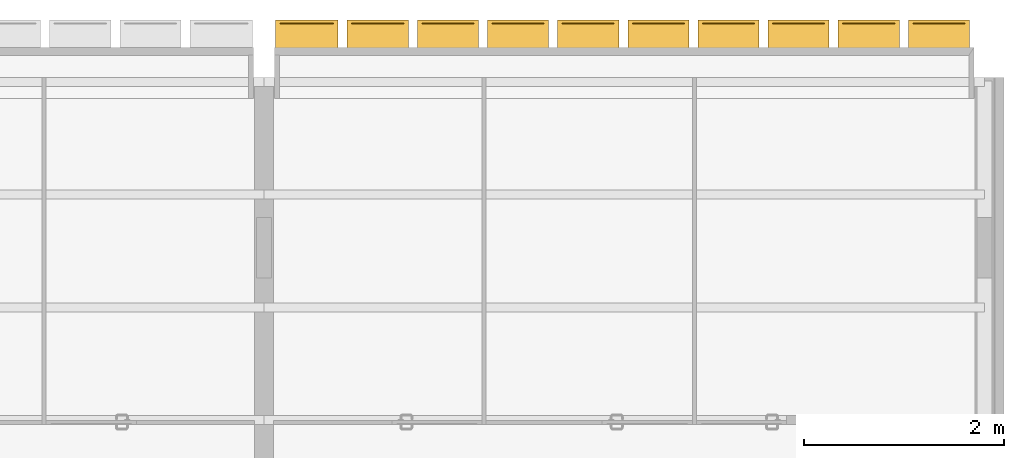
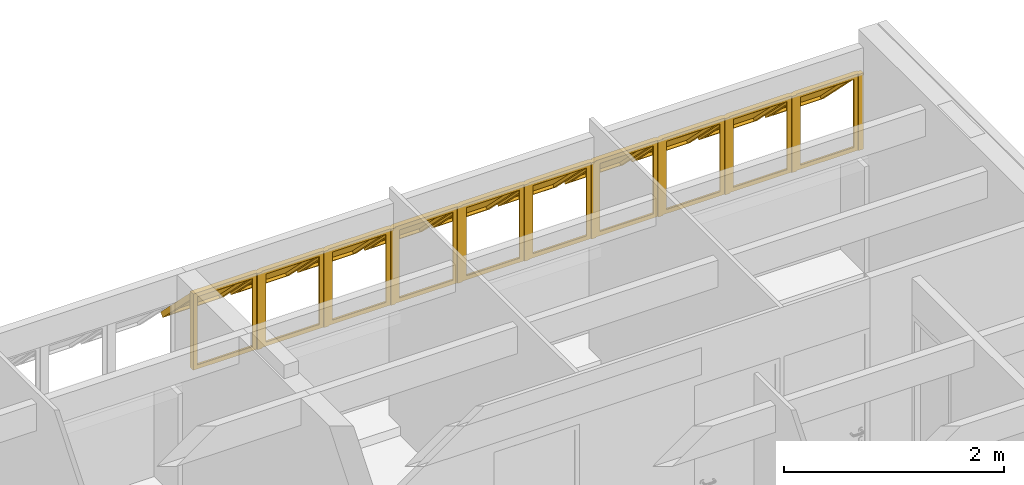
# One storey, part 22 of 22: 1 window.
"""IFC2X3 building model written with IfcOpenShell, lengths in millimetres."""

from ifc_helpers import new_model, si_unit, direction, frame, frame_2d, origin_with_axes, origin_2d_with_axis, place, context, subcontext, project, spatial, polyline, rectangle, outline, extrude, source, transform, mapped, type_object, type_shapes, element, save


model = new_model("IFC2X3")

# Units and contexts
model_context = context("Model", 3, precision=1e-05, world=origin_with_axes(), true_north=direction((0.0, 1.0)))
body_context = subcontext(model_context, "Body", "Model", "MODEL_VIEW")
ifc_project = project(units=[si_unit("LENGTHUNIT", "METRE", prefix="MILLI"), si_unit("AREAUNIT", "SQUARE_METRE"), si_unit("VOLUMEUNIT", "CUBIC_METRE"), si_unit("PLANEANGLEUNIT", "RADIAN"), si_unit("TIMEUNIT", "SECOND"), si_unit("MASSUNIT", "GRAM")], contexts=[model_context])

# Site, building, storey
site_placement = place(None, origin_with_axes())
site = spatial("IfcSite", under=ifc_project, at=site_placement, Name="Site", CompositionType="ELEMENT")
building_placement = place(site_placement, origin_with_axes())
building = spatial("IfcBuilding", under=site, at=building_placement, Name="Construção", CompositionType="COMPLEX")
storey_placement = place(building_placement, frame((0.0, 0.0, 2650.0), z_axis=(0.0, 0.0, 1.0), x_axis=(1.0, 0.0, 0.0)))
storey = spatial("IfcBuildingStorey", under=building, at=storey_placement, Name="Segundo Pavimento", CompositionType="COMPLEX", Elevation=2650.0)

# Window
window_style = type_object("IfcWindowStyle", ConstructionType="NOTDEFINED", OperationType="NOTDEFINED", ParameterTakesPrecedence=False, Sizeable=False)
shared_shape_1 = source(origin_with_axes(), body_context, "Body", "SweptSolid", [
    extrude(outline(polyline([(-324.99999695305, -22.5), (-279.99999695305, 22.5), (279.99999695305, 22.5), (324.99999695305, -22.5), (-324.99999695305, -22.5)])), frame((350.00000059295, 22.5, -40.0), z_axis=(0.0, 0.0, 1.0), x_axis=(1.0, 0.0, 0.0)), (0.0, 0.0, 1.0), 5.0),
    extrude(outline(polyline([(22.5, -422.499945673), (-22.5, -377.499945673), (-22.5, 377.499945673), (22.5, 422.499945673), (22.5, -422.499945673)])), frame((652.499997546, 422.499945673, -40.0), z_axis=(0.0, 0.0, 1.0), x_axis=(1.0, 0.0, 0.0)), (0.0, 0.0, 1.0), 5.0),
    extrude(outline(polyline([(-324.9999969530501, 22.5), (324.99999695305, 22.5), (279.99999695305, -22.5), (-279.9999969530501, -22.5), (-324.9999969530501, 22.5)])), frame((350.0000005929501, 822.499891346, -40.0), z_axis=(0.0, 0.0, 1.0), x_axis=(1.0, 0.0, 0.0)), (0.0, 0.0, 1.0), 5.0),
    extrude(outline(polyline([(-22.5, -422.499945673), (-22.5, 422.499945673), (22.5, 377.499945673), (22.5, -377.499945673), (-22.5, -422.499945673)])), frame((47.5000036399, 422.499945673, -40.0), z_axis=(0.0, 0.0, 1.0), x_axis=(1.0, 0.0, 0.0)), (0.0, 0.0, 1.0), 5.0),
    extrude(outline(polyline([(-324.99999695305, -10.0), (-304.99999695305, 10.0), (304.99999695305, 10.0), (324.99999695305, -10.0), (-324.99999695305, -10.0)])), frame((350.00000059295, 10.0, -35.0), z_axis=(0.0, 0.0, 1.0), x_axis=(1.0, 0.0, 0.0)), (0.0, 0.0, 1.0), 50.0),
    extrude(outline(polyline([(10.0, -422.499945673), (-10.0, -402.499945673), (-10.0, 402.499945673), (10.0, 422.499945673), (10.0, -422.499945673)])), frame((664.999997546, 422.499945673, -35.0), z_axis=(0.0, 0.0, 1.0), x_axis=(1.0, 0.0, 0.0)), (0.0, 0.0, 1.0), 50.0),
    extrude(outline(polyline([(-324.9999969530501, 10.0), (324.99999695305, 10.0), (304.99999695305, -10.0), (-304.9999969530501, -10.0), (-324.9999969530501, 10.0)])), frame((350.0000005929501, 834.999891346, -35.0), z_axis=(0.0, 0.0, 1.0), x_axis=(1.0, 0.0, 0.0)), (0.0, 0.0, 1.0), 50.0),
    extrude(outline(polyline([(-10.0, -422.499945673), (-10.0, 422.499945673), (10.0, 402.499945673), (10.0, -402.499945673), (-10.0, -422.499945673)])), frame((35.0000036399, 422.499945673, -35.0), z_axis=(0.0, 0.0, 1.0), x_axis=(1.0, 0.0, 0.0)), (0.0, 0.0, 1.0), 50.0),
    extrude(rectangle(XDim=844.999891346, YDim=19.99999787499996, at=frame_2d((0.0, 0.0), x_axis=(0.0, 1.0))), frame((684.9999964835, 422.499945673, -10.0), z_axis=(0.0, 0.0, 1.0), x_axis=(1.0, 0.0, 0.0)), (0.0, 0.0, 1.0), 20.0),
    extrude(rectangle(XDim=844.999891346, YDim=19.99999787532, at=frame_2d((0.0, 0.0), x_axis=(0.0, 1.0))), frame((15.00000470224, 422.499945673, -10.0), z_axis=(0.0, 0.0, 1.0), x_axis=(1.0, 0.0, 0.0)), (0.0, 0.0, 1.0), 20.0),
    extrude(outline(polyline([(22.5, -357.4999456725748), (-22.5, -402.4999456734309), (-22.50000000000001, 402.4999456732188), (22.5, 357.499945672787), (22.5, -357.4999456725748)])), frame((67.5000036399, 505.034111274, 264.2551019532), z_axis=(4.714640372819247e-12, 0.7071067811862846, 0.7071067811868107), x_axis=(1.0, 0.0, 0.0)), (0.0, 0.0, 1.0), 55.00000000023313),
    extrude(outline(polyline([(22.5, -402.4999456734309), (-22.5, -357.4999456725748), (-22.50000000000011, 357.499945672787), (22.5, 402.4999456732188), (22.5, -402.4999456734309)])), frame((632.499997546, 505.034111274, 264.2551019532), z_axis=(4.714640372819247e-12, 0.7071067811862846, 0.7071067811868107), x_axis=(1.0, 0.0, 0.0)), (0.0, 0.0, 1.0), 55.00000000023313),
    extrude(outline(polyline([(304.99999695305, -22.50000000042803), (-304.9999969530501, -22.50000000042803), (-259.9999969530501, 22.50000000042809), (259.99999695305, 22.50000000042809), (304.99999695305, -22.50000000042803)])), frame((350.00000059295, 236.333572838, 532.955640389), z_axis=(4.714640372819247e-12, 0.7071067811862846, 0.7071067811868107), x_axis=(1.0, 0.0, 0.0)), (0.0, 0.0, 1.0), 55.00000000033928),
    extrude(outline(polyline([(-304.9999969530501, 22.500000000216), (304.99999695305, 22.500000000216), (259.99999695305, -22.500000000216), (-259.9999969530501, -22.500000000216), (-304.9999969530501, 22.500000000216)])), frame((350.0000005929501, 773.73464971, -4.4454364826), z_axis=(4.714640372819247e-12, 0.7071067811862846, 0.7071067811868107), x_axis=(1.0, 0.0, 0.0)), (0.0, 0.0, 1.0), 55.00000000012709),
])
shared_shape_2 = source(origin_with_axes(), body_context, "Body", "SweptSolid", [
    extrude(rectangle(XDim=519.9999939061, YDim=16.00000000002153, at=origin_2d_with_axis()), frame((350.00000059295, 783.9876980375, 37.627416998), z_axis=(0.0, -0.7071067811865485, 0.7071067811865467), x_axis=(1.0, 0.0, 0.0)), (0.0, 0.0, 1.0), 714.9998913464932),
])
shared_shape_3 = source(origin_with_axes(), body_context, "Body", "MappedRepresentation", [
    mapped(shared_shape_1, transform((8870.0, 25844.9790225, 4005.02054151), x_axis=(-1.0, 0.0, 0.0), y_axis=(0.0, 0.0, 1.0), z_axis=(0.0, 1.0, 0.0), scale=1.0)),
    mapped(shared_shape_2, transform((8870.0, 25844.9790225, 4005.02054151), x_axis=(-1.0, 0.0, 0.0), y_axis=(0.0, 0.0, 1.0), z_axis=(0.0, 1.0, 0.0), scale=1.0)),
])
shared_shape_4 = source(origin_with_axes(), body_context, "Body", "SweptSolid", [
    extrude(outline(polyline([(-332.50003730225, -22.5), (-287.50003730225, 22.5), (287.50003730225, 22.5), (332.50003730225, -22.5), (-332.50003730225, -22.5)])), frame((357.50004190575, 22.5, -40.0), z_axis=(0.0, 0.0, 1.0), x_axis=(1.0, 0.0, 0.0)), (0.0, 0.0, 1.0), 5.0),
    extrude(outline(polyline([(22.5, -422.499961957), (-22.5, -377.499961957), (-22.5, 377.499961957), (22.5, 422.499961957), (22.5, -422.499961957)])), frame((667.500079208, 422.499961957, -40.0), z_axis=(0.0, 0.0, 1.0), x_axis=(1.0, 0.0, 0.0)), (0.0, 0.0, 1.0), 5.0),
    extrude(outline(polyline([(-332.50003730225, 22.5), (332.50003730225, 22.5), (287.50003730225, -22.5), (-287.50003730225, -22.5), (-332.50003730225, 22.5)])), frame((357.50004190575, 822.499923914, -40.0), z_axis=(0.0, 0.0, 1.0), x_axis=(1.0, 0.0, 0.0)), (0.0, 0.0, 1.0), 5.0),
    extrude(outline(polyline([(-22.5, -422.499961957), (-22.5, 422.499961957), (22.5, 377.499961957), (22.5, -377.499961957), (-22.5, -422.499961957)])), frame((47.5000046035, 422.499961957, -40.0), z_axis=(0.0, 0.0, 1.0), x_axis=(1.0, 0.0, 0.0)), (0.0, 0.0, 1.0), 5.0),
    extrude(outline(polyline([(-332.50003730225, -10.0), (-312.50003730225, 10.0), (312.50003730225, 10.0), (332.50003730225, -10.0), (-332.50003730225, -10.0)])), frame((357.50004190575, 10.0, -35.0), z_axis=(0.0, 0.0, 1.0), x_axis=(1.0, 0.0, 0.0)), (0.0, 0.0, 1.0), 50.0),
    extrude(outline(polyline([(10.0, -422.499961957), (-10.0, -402.499961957), (-10.0, 402.499961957), (10.0, 422.499961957), (10.0, -422.499961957)])), frame((680.000079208, 422.499961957, -35.0), z_axis=(0.0, 0.0, 1.0), x_axis=(1.0, 0.0, 0.0)), (0.0, 0.0, 1.0), 50.0),
    extrude(outline(polyline([(-332.50003730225, 10.0), (332.50003730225, 10.0), (312.50003730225, -10.0), (-312.50003730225, -10.0), (-332.50003730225, 10.0)])), frame((357.50004190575, 834.999923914, -35.0), z_axis=(0.0, 0.0, 1.0), x_axis=(1.0, 0.0, 0.0)), (0.0, 0.0, 1.0), 50.0),
    extrude(outline(polyline([(-10.0, -422.499961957), (-10.0, 422.499961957), (10.0, 402.499961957), (10.0, -402.499961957), (-10.0, -422.499961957)])), frame((35.0000046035, 422.499961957, -35.0), z_axis=(0.0, 0.0, 1.0), x_axis=(1.0, 0.0, 0.0)), (0.0, 0.0, 1.0), 50.0),
    extrude(rectangle(XDim=844.999923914, YDim=19.99999864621, at=frame_2d((0.0, 0.0), x_axis=(0.0, 1.0))), frame((15.000005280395, 422.499961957, -10.0), z_axis=(0.0, 0.0, 1.0), x_axis=(1.0, 0.0, 0.0)), (0.0, 0.0, 1.0), 20.0),
    extrude(outline(polyline([(22.5, -357.49996195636), (-22.50000000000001, -402.4999619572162), (-22.50000000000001, 402.4999619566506), (22.49999999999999, 357.4999619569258), (22.5, -357.49996195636)])), frame((67.5000046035, 505.0341323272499, 264.2551134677), z_axis=(4.714640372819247e-12, 0.7071067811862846, 0.7071067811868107), x_axis=(1.0, 0.0, 0.0)), (0.0, 0.0, 1.0), 54.99999999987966),
    extrude(outline(polyline([(22.5, -402.4999619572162), (-22.50000000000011, -357.4999619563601), (-22.50000000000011, 357.4999619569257), (22.5, 402.4999619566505), (22.5, -402.4999619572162)])), frame((647.500079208, 505.03413232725, 264.2551134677), z_axis=(4.714640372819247e-12, 0.7071067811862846, 0.7071067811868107), x_axis=(1.0, 0.0, 0.0)), (0.0, 0.0, 1.0), 54.99999999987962),
    extrude(outline(polyline([(312.50003730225, -22.50000000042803), (-312.50003730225, -22.50000000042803), (-267.50003730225, 22.50000000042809), (267.50003730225, 22.50000000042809), (312.50003730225, -22.50000000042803)])), frame((357.50004190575, 236.333582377, 532.955663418), z_axis=(4.714640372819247e-12, 0.7071067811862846, 0.7071067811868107), x_axis=(1.0, 0.0, 0.0)), (0.0, 0.0, 1.0), 54.9999999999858),
    extrude(outline(polyline([(-312.50003730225, 22.49999999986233), (312.50003730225, 22.49999999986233), (267.50003730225, -22.49999999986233), (-267.50003730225, -22.49999999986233), (-312.50003730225, 22.49999999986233)])), frame((357.50004190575, 773.7346822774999, -4.4454364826), z_axis=(4.714640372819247e-12, 0.7071067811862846, 0.7071067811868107), x_axis=(1.0, 0.0, 0.0)), (0.0, 0.0, 1.0), 54.99999999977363),
])
shared_shape_5 = source(origin_with_axes(), body_context, "Body", "SweptSolid", [
    extrude(rectangle(XDim=535.0000746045, YDim=16.00000000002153, at=origin_2d_with_axis()), frame((357.50004190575, 783.9877306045, 37.627416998), z_axis=(0.0, -0.7071067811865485, 0.7071067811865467), x_axis=(1.0, 0.0, 0.0)), (0.0, 0.0, 1.0), 714.9999239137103),
])
shared_shape_6 = source(origin_with_axes(), body_context, "Body", "MappedRepresentation", [
    mapped(shared_shape_4, transform((8170.0, 25844.9790225, 4005.020541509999), x_axis=(-1.0, 0.0, 0.0), y_axis=(0.0, 0.0, 1.0), z_axis=(0.0, 1.0, 0.0), scale=1.0)),
    mapped(shared_shape_5, transform((8170.0, 25844.9790225, 4005.020541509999), x_axis=(-1.0, 0.0, 0.0), y_axis=(0.0, 0.0, 1.0), z_axis=(0.0, 1.0, 0.0), scale=1.0)),
])
shared_shape_7 = source(origin_with_axes(), body_context, "Body", "SweptSolid", [
    extrude(outline(polyline([(-324.99999695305, -22.5), (-279.99999695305, 22.5), (279.99999695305, 22.5), (324.99999695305, -22.5), (-324.99999695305, -22.5)])), frame((350.00000059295, 22.5, -40.0), z_axis=(0.0, 0.0, 1.0), x_axis=(1.0, 0.0, 0.0)), (0.0, 0.0, 1.0), 5.0),
    extrude(outline(polyline([(22.5, -422.499945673), (-22.5, -377.499945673), (-22.5, 377.499945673), (22.5, 422.499945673), (22.5, -422.499945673)])), frame((652.499997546, 422.499945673, -40.0), z_axis=(0.0, 0.0, 1.0), x_axis=(1.0, 0.0, 0.0)), (0.0, 0.0, 1.0), 5.0),
    extrude(outline(polyline([(-324.9999969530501, 22.5), (324.99999695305, 22.5), (279.99999695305, -22.5), (-279.9999969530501, -22.5), (-324.9999969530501, 22.5)])), frame((350.0000005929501, 822.499891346, -40.0), z_axis=(0.0, 0.0, 1.0), x_axis=(1.0, 0.0, 0.0)), (0.0, 0.0, 1.0), 5.0),
    extrude(outline(polyline([(-22.5, -422.499945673), (-22.5, 422.499945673), (22.5, 377.499945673), (22.5, -377.499945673), (-22.5, -422.499945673)])), frame((47.5000036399, 422.499945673, -40.0), z_axis=(0.0, 0.0, 1.0), x_axis=(1.0, 0.0, 0.0)), (0.0, 0.0, 1.0), 5.0),
    extrude(outline(polyline([(-324.99999695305, -10.0), (-304.99999695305, 10.0), (304.99999695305, 10.0), (324.99999695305, -10.0), (-324.99999695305, -10.0)])), frame((350.00000059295, 10.0, -35.0), z_axis=(0.0, 0.0, 1.0), x_axis=(1.0, 0.0, 0.0)), (0.0, 0.0, 1.0), 50.0),
    extrude(outline(polyline([(10.0, -422.499945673), (-10.0, -402.499945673), (-10.0, 402.499945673), (10.0, 422.499945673), (10.0, -422.499945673)])), frame((664.999997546, 422.499945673, -35.0), z_axis=(0.0, 0.0, 1.0), x_axis=(1.0, 0.0, 0.0)), (0.0, 0.0, 1.0), 50.0),
    extrude(outline(polyline([(-324.9999969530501, 10.0), (324.99999695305, 10.0), (304.99999695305, -10.0), (-304.9999969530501, -10.0), (-324.9999969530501, 10.0)])), frame((350.0000005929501, 834.999891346, -35.0), z_axis=(0.0, 0.0, 1.0), x_axis=(1.0, 0.0, 0.0)), (0.0, 0.0, 1.0), 50.0),
    extrude(outline(polyline([(-10.0, -422.499945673), (-10.0, 422.499945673), (10.0, 402.499945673), (10.0, -402.499945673), (-10.0, -422.499945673)])), frame((35.0000036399, 422.499945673, -35.0), z_axis=(0.0, 0.0, 1.0), x_axis=(1.0, 0.0, 0.0)), (0.0, 0.0, 1.0), 50.0),
    extrude(rectangle(XDim=844.999891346, YDim=19.99999787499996, at=frame_2d((0.0, 0.0), x_axis=(0.0, 1.0))), frame((684.9999964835, 422.499945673, -10.0), z_axis=(0.0, 0.0, 1.0), x_axis=(1.0, 0.0, 0.0)), (0.0, 0.0, 1.0), 20.0),
    extrude(rectangle(XDim=844.999891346, YDim=19.99999787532, at=frame_2d((0.0, 0.0), x_axis=(0.0, 1.0))), frame((15.00000470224, 422.499945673, -10.0), z_axis=(0.0, 0.0, 1.0), x_axis=(1.0, 0.0, 0.0)), (0.0, 0.0, 1.0), 20.0),
    extrude(outline(polyline([(22.5, -357.4999456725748), (-22.5, -402.4999456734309), (-22.50000000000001, 402.4999456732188), (22.5, 357.499945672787), (22.5, -357.4999456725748)])), frame((67.5000036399, 505.034111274, 264.2551019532), z_axis=(4.714640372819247e-12, 0.7071067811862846, 0.7071067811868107), x_axis=(1.0, 0.0, 0.0)), (0.0, 0.0, 1.0), 55.00000000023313),
    extrude(outline(polyline([(22.5, -402.4999456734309), (-22.5, -357.4999456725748), (-22.50000000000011, 357.499945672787), (22.5, 402.4999456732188), (22.5, -402.4999456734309)])), frame((632.499997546, 505.034111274, 264.2551019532), z_axis=(4.714640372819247e-12, 0.7071067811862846, 0.7071067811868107), x_axis=(1.0, 0.0, 0.0)), (0.0, 0.0, 1.0), 55.00000000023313),
    extrude(outline(polyline([(304.99999695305, -22.50000000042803), (-304.9999969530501, -22.50000000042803), (-259.9999969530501, 22.50000000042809), (259.99999695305, 22.50000000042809), (304.99999695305, -22.50000000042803)])), frame((350.00000059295, 236.333572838, 532.955640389), z_axis=(4.714640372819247e-12, 0.7071067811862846, 0.7071067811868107), x_axis=(1.0, 0.0, 0.0)), (0.0, 0.0, 1.0), 55.00000000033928),
    extrude(outline(polyline([(-304.9999969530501, 22.500000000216), (304.99999695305, 22.500000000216), (259.99999695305, -22.500000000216), (-259.9999969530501, -22.500000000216), (-304.9999969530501, 22.500000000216)])), frame((350.0000005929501, 773.73464971, -4.4454364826), z_axis=(4.714640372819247e-12, 0.7071067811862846, 0.7071067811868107), x_axis=(1.0, 0.0, 0.0)), (0.0, 0.0, 1.0), 55.00000000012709),
])
shared_shape_8 = source(origin_with_axes(), body_context, "Body", "SweptSolid", [
    extrude(rectangle(XDim=519.9999939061, YDim=16.00000000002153, at=origin_2d_with_axis()), frame((350.00000059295, 783.9876980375, 37.627416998), z_axis=(0.0, -0.7071067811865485, 0.7071067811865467), x_axis=(1.0, 0.0, 0.0)), (0.0, 0.0, 1.0), 714.9998913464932),
])
shared_shape_9 = source(origin_with_axes(), body_context, "Body", "MappedRepresentation", [
    mapped(shared_shape_7, transform((14470.0, 25844.9790225, 4005.02054151), x_axis=(-1.0, 0.0, 0.0), y_axis=(0.0, 0.0, 1.0), z_axis=(0.0, 1.0, 0.0), scale=1.0)),
    mapped(shared_shape_8, transform((14470.0, 25844.9790225, 4005.02054151), x_axis=(-1.0, 0.0, 0.0), y_axis=(0.0, 0.0, 1.0), z_axis=(0.0, 1.0, 0.0), scale=1.0)),
])
shared_shape_10 = source(origin_with_axes(), body_context, "Body", "MappedRepresentation", [
    mapped(shared_shape_7, transform((13770.0, 25844.9790225, 4005.02054151), x_axis=(-1.0, 0.0, 0.0), y_axis=(0.0, 0.0, 1.0), z_axis=(0.0, 1.0, 0.0), scale=1.0)),
    mapped(shared_shape_8, transform((13770.0, 25844.9790225, 4005.02054151), x_axis=(-1.0, 0.0, 0.0), y_axis=(0.0, 0.0, 1.0), z_axis=(0.0, 1.0, 0.0), scale=1.0)),
])
shared_shape_11 = source(origin_with_axes(), body_context, "Body", "SweptSolid", [
    extrude(outline(polyline([(-324.99999695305, -22.5), (-279.99999695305, 22.5), (279.99999695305, 22.5), (324.99999695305, -22.5), (-324.99999695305, -22.5)])), frame((350.00000059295, 22.5, -40.0), z_axis=(0.0, 0.0, 1.0), x_axis=(1.0, 0.0, 0.0)), (0.0, 0.0, 1.0), 5.0),
    extrude(outline(polyline([(22.5, -422.499945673), (-22.5, -377.499945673), (-22.5, 377.499945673), (22.5, 422.499945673), (22.5, -422.499945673)])), frame((652.499997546, 422.499945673, -40.0), z_axis=(0.0, 0.0, 1.0), x_axis=(1.0, 0.0, 0.0)), (0.0, 0.0, 1.0), 5.0),
    extrude(outline(polyline([(-324.9999969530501, 22.5), (324.99999695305, 22.5), (279.99999695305, -22.5), (-279.9999969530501, -22.5), (-324.9999969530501, 22.5)])), frame((350.0000005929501, 822.499891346, -40.0), z_axis=(0.0, 0.0, 1.0), x_axis=(1.0, 0.0, 0.0)), (0.0, 0.0, 1.0), 5.0),
    extrude(outline(polyline([(-22.5, -422.499945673), (-22.5, 422.499945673), (22.5, 377.499945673), (22.5, -377.499945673), (-22.5, -422.499945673)])), frame((47.5000036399, 422.499945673, -40.0), z_axis=(0.0, 0.0, 1.0), x_axis=(1.0, 0.0, 0.0)), (0.0, 0.0, 1.0), 5.0),
    extrude(outline(polyline([(-324.99999695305, -10.0), (-304.99999695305, 10.0), (304.99999695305, 10.0), (324.99999695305, -10.0), (-324.99999695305, -10.0)])), frame((350.00000059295, 10.0, -35.0), z_axis=(0.0, 0.0, 1.0), x_axis=(1.0, 0.0, 0.0)), (0.0, 0.0, 1.0), 50.0),
    extrude(outline(polyline([(10.0, -422.499945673), (-10.0, -402.499945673), (-10.0, 402.499945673), (10.0, 422.499945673), (10.0, -422.499945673)])), frame((664.999997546, 422.499945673, -35.0), z_axis=(0.0, 0.0, 1.0), x_axis=(1.0, 0.0, 0.0)), (0.0, 0.0, 1.0), 50.0),
    extrude(outline(polyline([(-324.9999969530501, 10.0), (324.99999695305, 10.0), (304.99999695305, -10.0), (-304.9999969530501, -10.0), (-324.9999969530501, 10.0)])), frame((350.0000005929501, 834.999891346, -35.0), z_axis=(0.0, 0.0, 1.0), x_axis=(1.0, 0.0, 0.0)), (0.0, 0.0, 1.0), 50.0),
    extrude(outline(polyline([(-10.0, -422.499945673), (-10.0, 422.499945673), (10.0, 402.499945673), (10.0, -402.499945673), (-10.0, -422.499945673)])), frame((35.0000036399, 422.499945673, -35.0), z_axis=(0.0, 0.0, 1.0), x_axis=(1.0, 0.0, 0.0)), (0.0, 0.0, 1.0), 50.0),
    extrude(rectangle(XDim=844.999891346, YDim=19.99999787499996, at=frame_2d((0.0, 0.0), x_axis=(0.0, 1.0))), frame((684.9999964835, 422.499945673, -10.0), z_axis=(0.0, 0.0, 1.0), x_axis=(1.0, 0.0, 0.0)), (0.0, 0.0, 1.0), 20.0),
    extrude(rectangle(XDim=844.999891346, YDim=19.99999787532, at=frame_2d((0.0, 0.0), x_axis=(0.0, 1.0))), frame((15.00000470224, 422.499945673, -10.0), z_axis=(0.0, 0.0, 1.0), x_axis=(1.0, 0.0, 0.0)), (0.0, 0.0, 1.0), 20.0),
    extrude(outline(polyline([(22.5, -357.4999456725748), (-22.5, -402.4999456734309), (-22.50000000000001, 402.4999456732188), (22.5, 357.499945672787), (22.5, -357.4999456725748)])), frame((67.5000036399, 505.034111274, 264.2551019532), z_axis=(4.714640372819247e-12, 0.7071067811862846, 0.7071067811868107), x_axis=(1.0, 0.0, 0.0)), (0.0, 0.0, 1.0), 55.00000000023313),
    extrude(outline(polyline([(22.5, -402.4999456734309), (-22.5, -357.4999456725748), (-22.50000000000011, 357.499945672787), (22.5, 402.4999456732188), (22.5, -402.4999456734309)])), frame((632.499997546, 505.034111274, 264.2551019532), z_axis=(4.714640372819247e-12, 0.7071067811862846, 0.7071067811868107), x_axis=(1.0, 0.0, 0.0)), (0.0, 0.0, 1.0), 55.00000000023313),
    extrude(outline(polyline([(304.99999695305, -22.50000000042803), (-304.9999969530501, -22.50000000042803), (-259.9999969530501, 22.50000000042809), (259.99999695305, 22.50000000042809), (304.99999695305, -22.50000000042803)])), frame((350.00000059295, 236.333572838, 532.955640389), z_axis=(4.714640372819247e-12, 0.7071067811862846, 0.7071067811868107), x_axis=(1.0, 0.0, 0.0)), (0.0, 0.0, 1.0), 55.00000000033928),
    extrude(outline(polyline([(-304.9999969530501, 22.500000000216), (304.99999695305, 22.500000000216), (259.99999695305, -22.500000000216), (-259.9999969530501, -22.500000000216), (-304.9999969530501, 22.500000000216)])), frame((350.0000005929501, 773.73464971, -4.4454364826), z_axis=(4.714640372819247e-12, 0.7071067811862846, 0.7071067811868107), x_axis=(1.0, 0.0, 0.0)), (0.0, 0.0, 1.0), 55.00000000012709),
])
shared_shape_12 = source(origin_with_axes(), body_context, "Body", "SweptSolid", [
    extrude(rectangle(XDim=519.9999939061, YDim=16.00000000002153, at=origin_2d_with_axis()), frame((350.00000059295, 783.9876980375, 37.627416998), z_axis=(0.0, -0.7071067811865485, 0.7071067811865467), x_axis=(1.0, 0.0, 0.0)), (0.0, 0.0, 1.0), 714.9998913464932),
])
shared_shape_13 = source(origin_with_axes(), body_context, "Body", "MappedRepresentation", [
    mapped(shared_shape_11, transform((11670.0, 25844.9790225, 4005.02054151), x_axis=(-1.0, 0.0, 0.0), y_axis=(0.0, 0.0, 1.0), z_axis=(0.0, 1.0, 0.0), scale=1.0)),
    mapped(shared_shape_12, transform((11670.0, 25844.9790225, 4005.02054151), x_axis=(-1.0, 0.0, 0.0), y_axis=(0.0, 0.0, 1.0), z_axis=(0.0, 1.0, 0.0), scale=1.0)),
])
shared_shape_14 = source(origin_with_axes(), body_context, "Body", "MappedRepresentation", [
    mapped(shared_shape_7, transform((10970.0, 25844.9790225, 4005.02054151), x_axis=(-1.0, 0.0, 0.0), y_axis=(0.0, 0.0, 1.0), z_axis=(0.0, 1.0, 0.0), scale=1.0)),
    mapped(shared_shape_8, transform((10970.0, 25844.9790225, 4005.02054151), x_axis=(-1.0, 0.0, 0.0), y_axis=(0.0, 0.0, 1.0), z_axis=(0.0, 1.0, 0.0), scale=1.0)),
])
shared_shape_15 = source(origin_with_axes(), body_context, "Body", "MappedRepresentation", [
    mapped(shared_shape_1, transform((9570.0, 25844.9790225, 4005.02054151), x_axis=(-1.0, 0.0, 0.0), y_axis=(0.0, 0.0, 1.0), z_axis=(0.0, 1.0, 0.0), scale=1.0)),
    mapped(shared_shape_2, transform((9570.0, 25844.9790225, 4005.02054151), x_axis=(-1.0, 0.0, 0.0), y_axis=(0.0, 0.0, 1.0), z_axis=(0.0, 1.0, 0.0), scale=1.0)),
])
shared_shape_16 = source(origin_with_axes(), body_context, "Body", "MappedRepresentation", [
    mapped(shared_shape_11, transform((13070.0, 25844.9790225, 4005.02054151), x_axis=(-1.0, 0.0, 0.0), y_axis=(0.0, 0.0, 1.0), z_axis=(0.0, 1.0, 0.0), scale=1.0)),
    mapped(shared_shape_12, transform((13070.0, 25844.9790225, 4005.02054151), x_axis=(-1.0, 0.0, 0.0), y_axis=(0.0, 0.0, 1.0), z_axis=(0.0, 1.0, 0.0), scale=1.0)),
])
shared_shape_17 = source(origin_with_axes(), body_context, "Body", "MappedRepresentation", [
    mapped(shared_shape_1, transform((10270.0, 25844.9790225, 4005.02054151), x_axis=(-1.0, 0.0, 0.0), y_axis=(0.0, 0.0, 1.0), z_axis=(0.0, 1.0, 0.0), scale=1.0)),
    mapped(shared_shape_2, transform((10270.0, 25844.9790225, 4005.02054151), x_axis=(-1.0, 0.0, 0.0), y_axis=(0.0, 0.0, 1.0), z_axis=(0.0, 1.0, 0.0), scale=1.0)),
])
shared_shape_18 = source(origin_with_axes(), body_context, "Body", "MappedRepresentation", [
    mapped(shared_shape_1, transform((12370.0, 25844.9790225, 4005.02054151), x_axis=(-1.0, 0.0, 0.0), y_axis=(0.0, 0.0, 1.0), z_axis=(0.0, 1.0, 0.0), scale=1.0)),
    mapped(shared_shape_2, transform((12370.0, 25844.9790225, 4005.02054151), x_axis=(-1.0, 0.0, 0.0), y_axis=(0.0, 0.0, 1.0), z_axis=(0.0, 1.0, 0.0), scale=1.0)),
])
shared_shape_19 = source(origin_with_axes(), body_context, "Body", "SweptSolid", [
    extrude(rectangle(XDim=844.999891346, YDim=50.0, at=frame_2d((0.0, 0.0), x_axis=(0.0, 1.0))), frame((3525.0, 422.4999456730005, -637.7564389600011), z_axis=(0.0, 0.0, 1.0), x_axis=(1.0, 0.0, 0.0)), (0.0, 0.0, 1.0), 50.0),
])
shared_shape_20 = source(origin_with_axes(), body_context, "Body", "SweptSolid", [
    extrude(rectangle(XDim=844.999891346, YDim=50.0, at=frame_2d((0.0, 0.0), x_axis=(0.0, 1.0))), frame((4225.0, 422.4999456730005, -637.7564389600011), z_axis=(0.0, 0.0, 1.0), x_axis=(1.0, 0.0, 0.0)), (0.0, 0.0, 1.0), 50.0),
])
shared_shape_21 = source(origin_with_axes(), body_context, "Body", "SweptSolid", [
    extrude(rectangle(XDim=844.999891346, YDim=50.0, at=frame_2d((0.0, 0.0), x_axis=(0.0, 1.0))), frame((4925.0, 422.4999456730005, -637.7564389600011), z_axis=(0.0, 0.0, 1.0), x_axis=(1.0, 0.0, 0.0)), (0.0, 0.0, 1.0), 50.0),
])
shared_shape_22 = source(origin_with_axes(), body_context, "Body", "SweptSolid", [
    extrude(rectangle(XDim=844.999891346, YDim=50.0, at=frame_2d((0.0, 0.0), x_axis=(0.0, 1.0))), frame((2125.0, 422.4999456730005, -637.7564389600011), z_axis=(0.0, 0.0, 1.0), x_axis=(1.0, 0.0, 0.0)), (0.0, 0.0, 1.0), 50.0),
])
shared_shape_23 = source(origin_with_axes(), body_context, "Body", "SweptSolid", [
    extrude(rectangle(XDim=844.999891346, YDim=50.0, at=frame_2d((0.0, 0.0), x_axis=(0.0, 1.0))), frame((5625.0, 422.4999456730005, -637.7564389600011), z_axis=(0.0, 0.0, 1.0), x_axis=(1.0, 0.0, 0.0)), (0.0, 0.0, 1.0), 50.0),
])
shared_shape_24 = source(origin_with_axes(), body_context, "Body", "SweptSolid", [
    extrude(rectangle(XDim=844.999891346, YDim=50.0, at=frame_2d((0.0, 0.0), x_axis=(0.0, 1.0))), frame((6325.0, 422.4999456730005, -637.7564389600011), z_axis=(0.0, 0.0, 1.0), x_axis=(1.0, 0.0, 0.0)), (0.0, 0.0, 1.0), 50.0),
])
shared_shape_25 = source(origin_with_axes(), body_context, "Body", "SweptSolid", [
    extrude(rectangle(XDim=844.999891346, YDim=50.0, at=frame_2d((0.0, 0.0), x_axis=(0.0, 1.0))), frame((25.0, 422.4999456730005, -637.7564389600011), z_axis=(0.0, 0.0, 1.0), x_axis=(1.0, 0.0, 0.0)), (0.0, 0.0, 1.0), 50.0),
])
shared_shape_26 = source(origin_with_axes(), body_context, "Body", "SweptSolid", [
    extrude(rectangle(XDim=844.999891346, YDim=50.0, at=frame_2d((0.0, 0.0), x_axis=(0.0, 1.0))), frame((2825.0, 422.4999456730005, -637.7564389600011), z_axis=(0.0, 0.0, 1.0), x_axis=(1.0, 0.0, 0.0)), (0.0, 0.0, 1.0), 50.0),
])
shared_shape_27 = source(origin_with_axes(), body_context, "Body", "SweptSolid", [
    extrude(rectangle(XDim=844.999891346, YDim=50.0, at=frame_2d((0.0, 0.0), x_axis=(0.0, 1.0))), frame((1425.0, 422.4999456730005, -637.7564389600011), z_axis=(0.0, 0.0, 1.0), x_axis=(1.0, 0.0, 0.0)), (0.0, 0.0, 1.0), 50.0),
])
shared_shape_28 = source(origin_with_axes(), body_context, "Body", "SweptSolid", [
    extrude(rectangle(XDim=844.999891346, YDim=50.0, at=frame_2d((0.0, 0.0), x_axis=(0.0, 1.0))), frame((725.0, 422.4999456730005, -637.7564389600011), z_axis=(0.0, 0.0, 1.0), x_axis=(1.0, 0.0, 0.0)), (0.0, 0.0, 1.0), 50.0),
])
shared_shape_29 = source(origin_with_axes(), body_context, "Body", "MappedRepresentation", [
    mapped(shared_shape_3, transform((14495.0, -4005.020541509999, -26432.73546146), x_axis=(-1.0, 0.0, 0.0), y_axis=(0.0, 0.0, 1.0), z_axis=(0.0, 1.0, 0.0), scale=1.0)),
    mapped(shared_shape_6, transform((14495.0, -4005.020541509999, -26432.73546146), x_axis=(-1.0, 0.0, 0.0), y_axis=(0.0, 0.0, 1.0), z_axis=(0.0, 1.0, 0.0), scale=1.0)),
    mapped(shared_shape_9, transform((14495.0, -4005.020541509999, -26432.73546146), x_axis=(-1.0, 0.0, 0.0), y_axis=(0.0, 0.0, 1.0), z_axis=(0.0, 1.0, 0.0), scale=1.0)),
    mapped(shared_shape_10, transform((14495.0, -4005.020541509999, -26432.73546146), x_axis=(-1.0, 0.0, 0.0), y_axis=(0.0, 0.0, 1.0), z_axis=(0.0, 1.0, 0.0), scale=1.0)),
    mapped(shared_shape_13, transform((14495.0, -4005.020541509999, -26432.73546146), x_axis=(-1.0, 0.0, 0.0), y_axis=(0.0, 0.0, 1.0), z_axis=(0.0, 1.0, 0.0), scale=1.0)),
    mapped(shared_shape_14, transform((14495.0, -4005.020541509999, -26432.73546146), x_axis=(-1.0, 0.0, 0.0), y_axis=(0.0, 0.0, 1.0), z_axis=(0.0, 1.0, 0.0), scale=1.0)),
    mapped(shared_shape_15, transform((14495.0, -4005.020541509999, -26432.73546146), x_axis=(-1.0, 0.0, 0.0), y_axis=(0.0, 0.0, 1.0), z_axis=(0.0, 1.0, 0.0), scale=1.0)),
    mapped(shared_shape_16, transform((14495.0, -4005.020541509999, -26432.73546146), x_axis=(-1.0, 0.0, 0.0), y_axis=(0.0, 0.0, 1.0), z_axis=(0.0, 1.0, 0.0), scale=1.0)),
    mapped(shared_shape_17, transform((14495.0, -4005.020541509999, -26432.73546146), x_axis=(-1.0, 0.0, 0.0), y_axis=(0.0, 0.0, 1.0), z_axis=(0.0, 1.0, 0.0), scale=1.0)),
    mapped(shared_shape_18, transform((14495.0, -4005.020541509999, -26432.73546146), x_axis=(-1.0, 0.0, 0.0), y_axis=(0.0, 0.0, 1.0), z_axis=(0.0, 1.0, 0.0), scale=1.0)),
    mapped(shared_shape_19, transform((0.0, 0.0, 0.0))),
    mapped(shared_shape_20, transform((0.0, 0.0, 0.0))),
    mapped(shared_shape_21, transform((0.0, 0.0, 0.0))),
    mapped(shared_shape_22, transform((0.0, 0.0, 0.0))),
    mapped(shared_shape_23, transform((0.0, 0.0, 0.0))),
    mapped(shared_shape_24, transform((0.0, 0.0, 0.0))),
    mapped(shared_shape_25, transform((0.0, 0.0, 0.0))),
    mapped(shared_shape_26, transform((0.0, 0.0, 0.0))),
    mapped(shared_shape_27, transform((0.0, 0.0, 0.0))),
    mapped(shared_shape_28, transform((0.0, 0.0, 0.0))),
])
type_shapes(window_style, [shared_shape_29])
window_placement = place(storey_placement, frame((14495.0, 26432.73546146, 1355.020541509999), z_axis=(0.0, 0.0, 1.0), x_axis=(-1.0, 0.0, 0.0)))
element("IfcWindow", 1, at=window_placement, inside=storey, type_object=window_style, Name="APTO8-JANELA-001", context=body_context, shape_type="MappedRepresentation", body=[
    mapped(shared_shape_29, transform((0.0, 0.0, 0.0), x_axis=(1.0, 0.0, 0.0), y_axis=(0.0, 0.0, 1.0), z_axis=(0.0, -1.0, 0.0), scale=1.0)),
])

save(model, "model.ifc")
